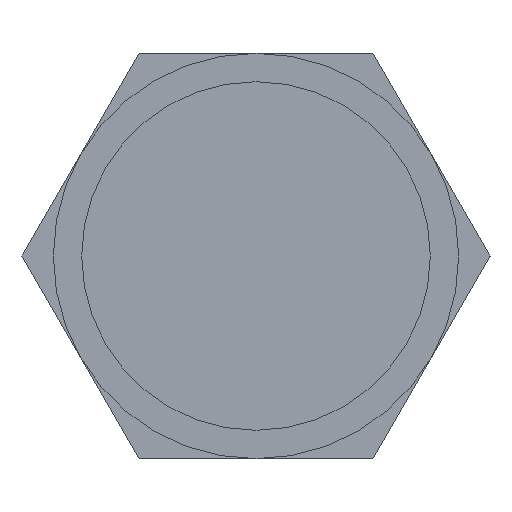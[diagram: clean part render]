
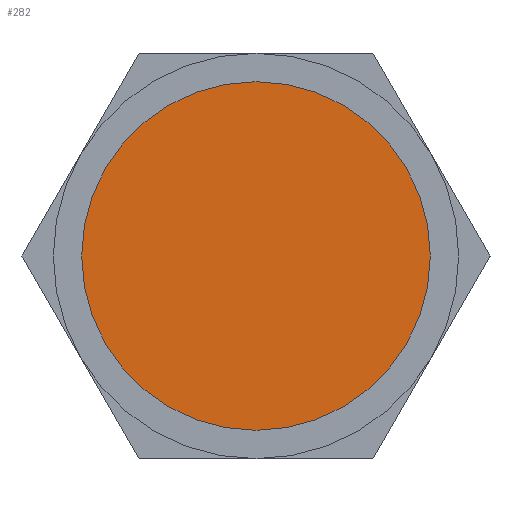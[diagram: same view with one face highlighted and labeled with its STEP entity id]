
A CAD part, left-side view. The second image highlights one B-rep face of the part: STEP entity #282.
In plain terms, the highlighted planar face has unit normal (-1, 0, 0).
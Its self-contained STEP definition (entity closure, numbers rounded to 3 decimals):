
#282 = ADVANCED_FACE( '', ( #539 ), #540, .T. );
#539 = FACE_OUTER_BOUND( '', #801, .T. );
#540 = PLANE( '', #802 );
#801 = EDGE_LOOP( '', ( #1187 ) );
#802 = AXIS2_PLACEMENT_3D( '', #1188, #1189, #1190 );
#1187 = ORIENTED_EDGE( '', *, *, #1467, .T. );
#1188 = CARTESIAN_POINT( '', ( -28.8, 0., 0. ) );
#1189 = DIRECTION( '', ( -1., 0., 0. ) );
#1190 = DIRECTION( '', ( 0., -1., 0. ) );
#1467 = EDGE_CURVE( '', #1690, #1690, #1691, .T. );
#1690 = VERTEX_POINT( '', #1969 );
#1691 = CIRCLE( '', #1970, 2.15 );
#1969 = CARTESIAN_POINT( '', ( -28.8, 2.15, 0. ) );
#1970 = AXIS2_PLACEMENT_3D( '', #2231, #2232, #2233 );
#2231 = CARTESIAN_POINT( '', ( -28.8, 0., 0. ) );
#2232 = DIRECTION( '', ( -1., 0., 0. ) );
#2233 = DIRECTION( '', ( 0., 1., 0. ) );
